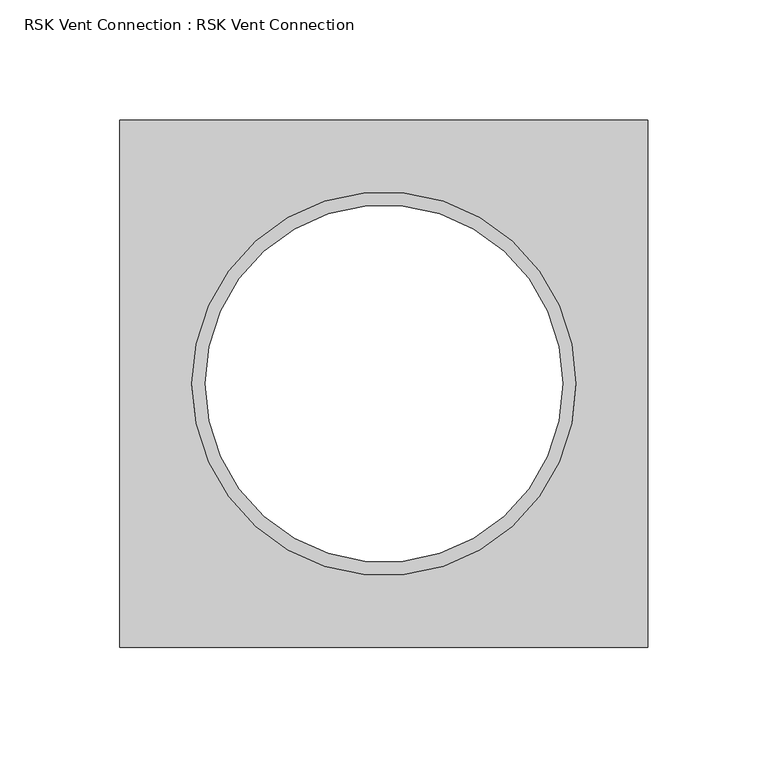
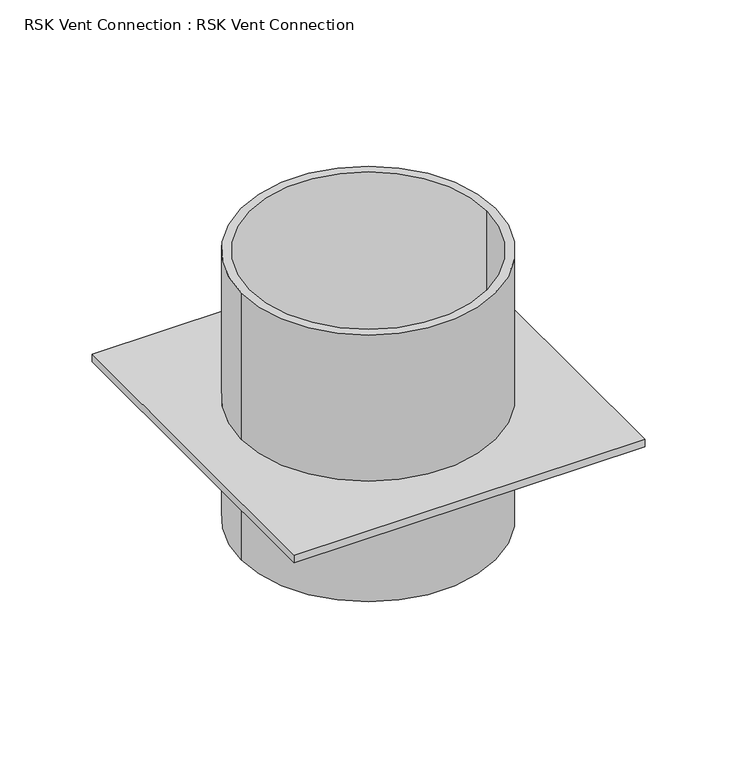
"""IFC4 building model written with IfcOpenShell, lengths in millimetres: proxy geometry, RSK Vent Connection : RSK Vent Connection."""

from ifc_helpers import new_model, si_unit, frame, origin, place, context, project, spatial, polyline, circle_curve, source, transform, mapped, element, save
from ifc_brep_helpers import plane_surface, cylinder_surface, revolved_surface, advanced_brep


def rsk_vent_connection_rsk_vent_connection_f3095d52(model_context):
    return source(origin(), model_context, "Body", "AdvancedBrep", [
        advanced_brep(
        [(110.0, -110.0, 5.0), (110.0, 110.0, 5.0), (-110.0, 110.0, 5.0), (-110.0, -110.0, 5.0), (-80.0, 0.0, 5.0), (80.0, 0.0, 5.0), (110.0, -110.0, 0.0), (-110.0, -110.0, 0.0), (-110.0, 110.0, 0.0), (110.0, 110.0, 0.0), (80.0, 0.0, 0.0), (-80.0, 0.0, 0.0), (80.0, 0.0, 102.0), (-80.0, 0.0, 102.0), (74.5, 0.0, 102.0), (-74.5, 0.0, 102.0), (80.0, 0.0, -75.0), (-80.0, 0.0, -75.0), (74.5, 0.0, -75.0), (-74.5, 0.0, -75.0)],
        [
            (0, 1),
            (1, 2),
            (2, 3),
            (3, 0),
            (4, 5, circle_curve(frame((0.0, 0.0, 5.0), z_axis=(0.0, 0.0, -1.0), x_axis=(-1.0, 0.0, 0.0)), 80.0)),
            (5, 4, circle_curve(frame((0.0, 0.0, 5.0), z_axis=(0.0, 0.0, -1.0), x_axis=(-1.0, 0.0, 0.0)), 80.0)),
            (6, 7),
            (7, 8),
            (8, 9),
            (9, 6),
            (10, 11, circle_curve(frame((0.0, 0.0, 0.0), z_axis=(0.0, 0.0, 1.0), x_axis=(-1.0, 0.0, 0.0)), 80.0)),
            (11, 10, circle_curve(frame((0.0, 0.0, 0.0), z_axis=(0.0, 0.0, 1.0), x_axis=(-1.0, 0.0, 0.0)), 80.0)),
            (0, 6),
            (9, 1),
            (8, 2),
            (7, 3),
            (12, 13, circle_curve(frame((0.0, 0.0, 102.0), z_axis=(0.0, 0.0, 1.0), x_axis=(-1.0, 0.0, 0.0)), 80.0)),
            (13, 12, circle_curve(frame((0.0, 0.0, 102.0), z_axis=(0.0, 0.0, 1.0), x_axis=(-1.0, 0.0, 0.0)), 80.0)),
            (14, 15, circle_curve(frame((0.0, 0.0, 102.0), z_axis=(0.0, 0.0, -1.0), x_axis=(-1.0, 0.0, 0.0)), 74.5)),
            (15, 14, circle_curve(frame((0.0, 0.0, 102.0), z_axis=(0.0, 0.0, -1.0), x_axis=(-1.0, 0.0, 0.0)), 74.5)),
            (16, 17, circle_curve(frame((0.0, 0.0, -75.0), z_axis=(0.0, 0.0, -1.0), x_axis=(-1.0, 0.0, 0.0)), 80.0)),
            (17, 16, circle_curve(frame((0.0, 0.0, -75.0), z_axis=(0.0, 0.0, -1.0), x_axis=(-1.0, 0.0, 0.0)), 80.0)),
            (18, 19, circle_curve(frame((0.0, 0.0, -75.0), z_axis=(0.0, 0.0, 1.0), x_axis=(-1.0, 0.0, 0.0)), 74.5)),
            (19, 18, circle_curve(frame((0.0, 0.0, -75.0), z_axis=(0.0, 0.0, 1.0), x_axis=(-1.0, 0.0, 0.0)), 74.5)),
            (12, 5),
            (4, 13),
            (17, 11),
            (10, 16),
            (14, 18),
            (19, 15),
        ],
        [
            plane_surface(frame((110.0, -110.0, 5.0), z_axis=(0.0, 0.0, 1.0), x_axis=(0.0, 1.0, 0.0))),
            plane_surface(frame((110.0, -110.0, 0.0), z_axis=(0.0, 0.0, -1.0), x_axis=(0.0, -1.0, 0.0))),
            plane_surface(frame((110.0, -110.0, 5.0), z_axis=(1.0, 0.0, 0.0), x_axis=(0.0, 0.0, -1.0))),
            plane_surface(frame((110.0, 110.0, 5.0), z_axis=(0.0, 1.0, 0.0), x_axis=(0.0, 0.0, -1.0))),
            plane_surface(frame((-110.0, 110.0, 5.0), z_axis=(-1.0, 0.0, 0.0), x_axis=(0.0, 0.0, -1.0))),
            plane_surface(frame((-110.0, -110.0, 5.0), z_axis=(0.0, -1.0, 0.0), x_axis=(0.0, 0.0, -1.0))),
            plane_surface(frame((-80.0, 0.0, 102.0), z_axis=(0.0, 0.0, 1.0), x_axis=(0.0, -1.0, 0.0))),
            plane_surface(frame((-80.0, 0.0, -75.0), z_axis=(0.0, 0.0, -1.0), x_axis=(0.0, 1.0, 0.0))),
            cylinder_surface(frame((0.0, 0.0, -75.0), z_axis=(0.0, 0.0, 1.0), x_axis=(-1.0, 0.0, 0.0)), 80.0),
            revolved_surface(polyline([(-74.5, 0.0, -75.0), (-74.5, 0.0, 102.0)]), (0.0, 0.0, -75.0), (0.0, 0.0, -1.0)),
        ],
        [
            (0, [[1, 2, 3, 4], [5, 6]]),
            (1, [[7, 8, 9, 10], [11, 12]]),
            (2, [[-1, 13, -10, 14]]),
            (3, [[-2, -14, -9, 15]]),
            (4, [[-3, -15, -8, 16]]),
            (5, [[-4, -16, -7, -13]]),
            (6, [[17, 18], [19, 20]]),
            (7, [[21, 22], [23, 24]]),
            (8, [[-17, 25, -5, 26]]),
            (8, [[-22, 27, -11, 28]]),
            (8, [[-18, -26, -6, -25]]),
            (8, [[-21, -28, -12, -27]]),
            (9, [[-19, 29, -24, 30]]),
            (9, [[-20, -30, -23, -29]]),
        ],
    ),
    ])


if __name__ == "__main__":
    model = new_model("IFC4")
    model_context = context("Model", 3, world=origin())
    ifc_project = project(units=[si_unit("LENGTHUNIT", "METRE", prefix="MILLI")], contexts=[model_context])
    site = spatial("IfcSite", under=ifc_project)
    building = spatial("IfcBuilding", under=site)
    placement = place(None, origin())
    rsk_vent_connection_rsk_vent_connection_shape = rsk_vent_connection_rsk_vent_connection_f3095d52(model_context)
    element("IfcBuildingElementProxy", 1, Name="RSK Vent Connection : RSK Vent Connection", ObjectType="RSK Vent Connection : RSK Vent Connection", at=placement, inside=building, context=model_context, shape_type="MappedRepresentation", body=[
        mapped(rsk_vent_connection_rsk_vent_connection_shape, transform((0.0, 0.0, 0.0), x_axis=(1.0, 0.0, 0.0), y_axis=(0.0, 1.0, 0.0), z_axis=(0.0, 0.0, 1.0))),
    ])
    save(model, "model.ifc")
